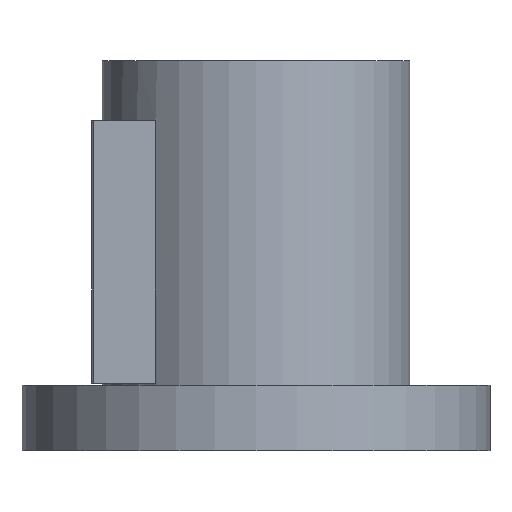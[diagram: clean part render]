
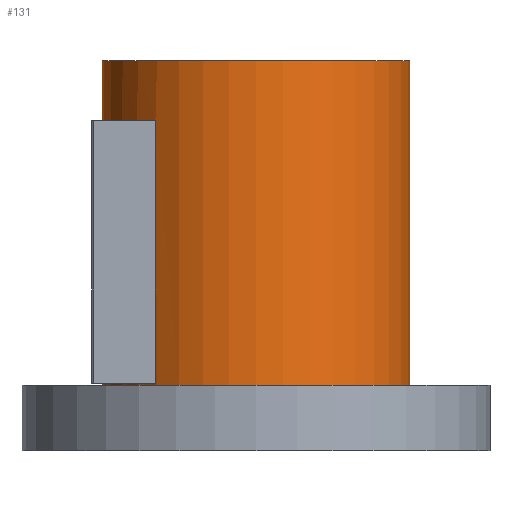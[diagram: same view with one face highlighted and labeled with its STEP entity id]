
A CAD part, front view. The second image highlights one B-rep face of the part: STEP entity #131.
In plain terms, the highlighted cylindrical face has radius 75 mm (diameter 150 mm), a full revolution.
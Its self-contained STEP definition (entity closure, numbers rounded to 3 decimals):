
#131=ADVANCED_FACE('',(#218,#219,#220),#161,.T.);
#161=CYLINDRICAL_SURFACE('',#550,75.);
#174=LINE('',#752,#196);
#175=LINE('',#756,#197);
#196=VECTOR('',#612,1.);
#197=VECTOR('',#615,1.);
#218=FACE_BOUND('',#263,.T.);
#219=FACE_BOUND('',#264,.T.);
#220=FACE_BOUND('',#265,.T.);
#263=EDGE_LOOP('',(#325));
#264=EDGE_LOOP('',(#326));
#265=EDGE_LOOP('',(#327,#328,#329,#330));
#325=ORIENTED_EDGE('',*,*,#467,.F.);
#326=ORIENTED_EDGE('',*,*,#468,.T.);
#327=ORIENTED_EDGE('',*,*,#469,.F.);
#328=ORIENTED_EDGE('',*,*,#470,.F.);
#329=ORIENTED_EDGE('',*,*,#471,.T.);
#330=ORIENTED_EDGE('',*,*,#472,.F.);
#425=VERTEX_POINT('',#746);
#426=VERTEX_POINT('',#748);
#427=VERTEX_POINT('',#750);
#428=VERTEX_POINT('',#751);
#429=VERTEX_POINT('',#753);
#430=VERTEX_POINT('',#755);
#467=EDGE_CURVE('',#425,#425,#517,.T.);
#468=EDGE_CURVE('',#426,#426,#518,.T.);
#469=EDGE_CURVE('',#427,#428,#519,.T.);
#470=EDGE_CURVE('',#429,#427,#174,.T.);
#471=EDGE_CURVE('',#429,#430,#520,.T.);
#472=EDGE_CURVE('',#428,#430,#175,.T.);
#517=CIRCLE('',#546,75.);
#518=CIRCLE('',#547,75.);
#519=CIRCLE('',#548,75.);
#520=CIRCLE('',#549,75.);
#546=AXIS2_PLACEMENT_3D('',#745,#606,#607);
#547=AXIS2_PLACEMENT_3D('',#747,#608,#609);
#548=AXIS2_PLACEMENT_3D('',#749,#610,#611);
#549=AXIS2_PLACEMENT_3D('',#754,#613,#614);
#550=AXIS2_PLACEMENT_3D('',#757,#616,#617);
#606=DIRECTION('',(0.,0.,1.));
#607=DIRECTION('',(1.,0.,0.));
#608=DIRECTION('',(0.,0.,1.));
#609=DIRECTION('',(1.,0.,0.));
#610=DIRECTION('',(0.,0.,-1.));
#611=DIRECTION('',(-1.,0.,0.));
#612=DIRECTION('',(0.,0.,1.));
#613=DIRECTION('',(0.,0.,-1.));
#614=DIRECTION('',(-1.,0.,0.));
#615=DIRECTION('',(0.,0.,-1.));
#616=DIRECTION('',(0.,0.,-1.));
#617=DIRECTION('',(-1.,0.,0.));
#745=CARTESIAN_POINT('',(0.,0.,190.));
#746=CARTESIAN_POINT('',(75.,0.,190.));
#747=CARTESIAN_POINT('',(0.,0.,32.));
#748=CARTESIAN_POINT('',(75.,0.,32.));
#749=CARTESIAN_POINT('',(0.,0.,161.));
#750=CARTESIAN_POINT('',(-49.,-56.78,161.));
#751=CARTESIAN_POINT('',(-49.,56.78,161.));
#752=CARTESIAN_POINT('',(-49.,-56.78,190.));
#753=CARTESIAN_POINT('',(-49.,-56.78,33.));
#754=CARTESIAN_POINT('',(0.,0.,33.));
#755=CARTESIAN_POINT('',(-49.,56.78,33.));
#756=CARTESIAN_POINT('',(-49.,56.78,190.));
#757=CARTESIAN_POINT('',(0.,0.,190.));
